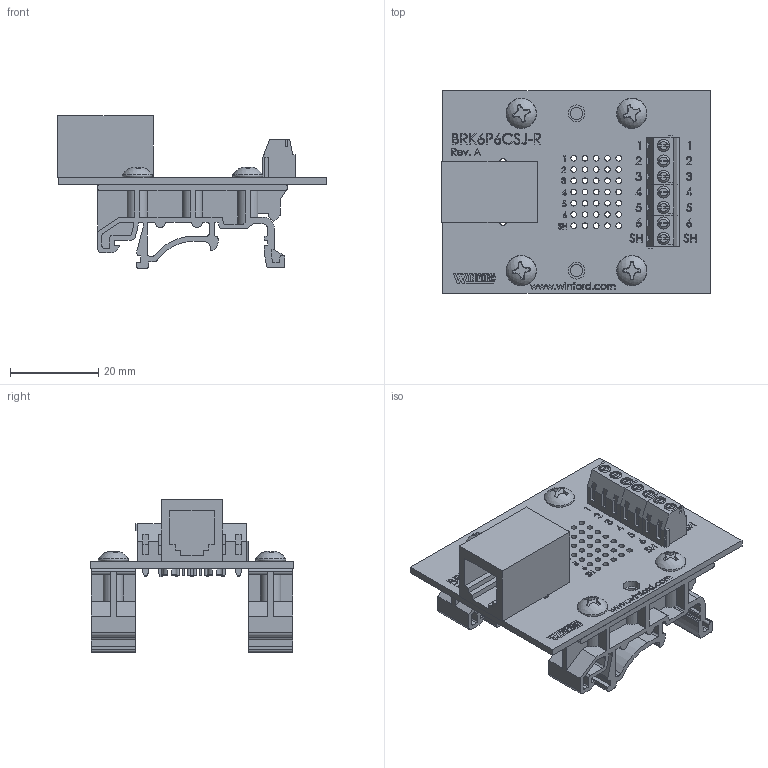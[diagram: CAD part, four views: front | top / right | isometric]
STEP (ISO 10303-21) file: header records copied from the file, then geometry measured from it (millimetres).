
FILE_DESCRIPTION (( 'STEP AP214' ), '1' );
FILE_NAME ('brk6p6csj-r-din_rev_a.stp', '2018-07-24T01:54:38', ( '' ), ( '' ), 'SwSTEP 2.0', 'SolidWorks 2017', '' );
FILE_SCHEMA (( 'AUTOMOTIVE_DESIGN' ));
Length unit declared in the file: inch
Products named in the file (7): Screw_SCSMPP-6-0.375_90184A127; BRK6P6CSJR Board; Screw Terminal 3; Screw Terminal 2; dinm01; Modular Jack Right Angle 6 Shielded; brk6p6csj-r-din_rev_a
Assembly tree (11 placements, depth 2):
  brk6p6csj-r-din_rev_a
    BRK6P6CSJR Board
    dinm01  x2
    Modular Jack Right Angle 6 Shielded
    Screw Terminal 2  x2
    Screw Terminal 3
    Screw_SCSMPP-6-0.375_90184A127  x4
Bounding box: 60.71 x 45.72 x 34.54 mm (x, y, z)
Volume: 11953.7 mm3; surface area: 19554.8 mm2
Topology: 8 solids, 18 shells, 2215 faces, 6044 edges, 4017 vertices
Faces by surface type: plane 1399, bspline 396, cylinder 370, cone 35, torus 11, sphere 4
Full cylindrical faces by diameter (mm): 0.635 x6, 0.889 x5, 1.092 x7, 1.27 x35, 1.575 x2, 2 x14, 2.68 x7, 2.75 x13, 3.251 x2, 3.81 x6
Entity records: 85195 total; most frequent: CARTESIAN_POINT 31878, ORIENTED_EDGE 8877, DIRECTION 6764, EDGE_CURVE 4446, LINE 3108, VECTOR 3108, VERTEX_POINT 3016, EDGE_LOOP 2044
